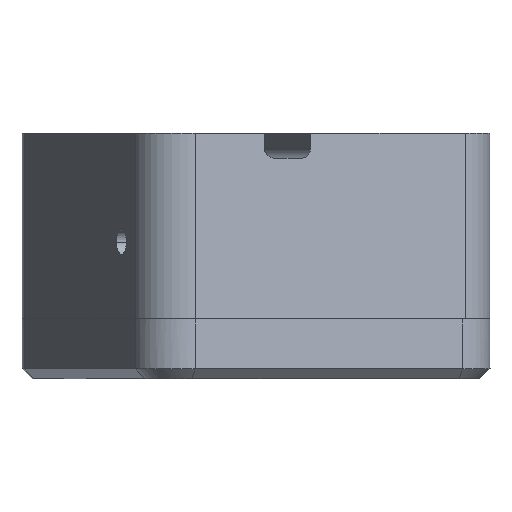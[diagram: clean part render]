
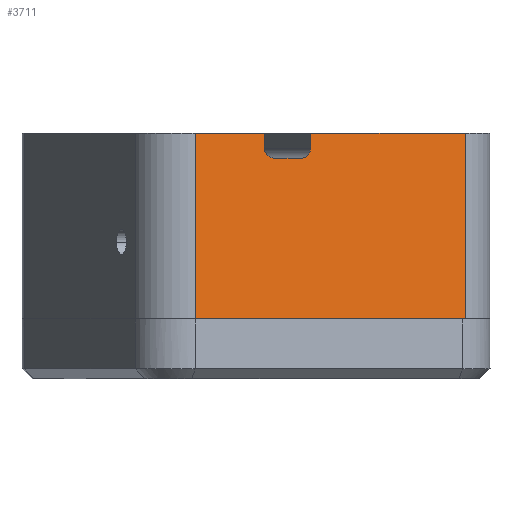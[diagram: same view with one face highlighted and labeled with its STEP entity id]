
A CAD part, left-side view. The second image highlights one B-rep face of the part: STEP entity #3711.
In plain terms, the highlighted planar face has unit normal (-0.923, -0.384, 0).
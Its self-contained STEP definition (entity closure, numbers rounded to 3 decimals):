
#111 = ORIENTED_EDGE ( 'NONE', *, *, #2089, .F. ) ;
#371 = DIRECTION ( 'NONE',  ( 0.384, -0.923, 0. ) ) ;
#483 = VECTOR ( 'NONE', #5556, 1000. ) ;
#633 = ORIENTED_EDGE ( 'NONE', *, *, #7580, .T. ) ;
#750 = VERTEX_POINT ( 'NONE', #2183 ) ;
#793 = LINE ( 'NONE', #832, #8430 ) ;
#832 = CARTESIAN_POINT ( 'NONE',  ( -69.879, -6.045, 90.978 ) ) ;
#849 = CARTESIAN_POINT ( 'NONE',  ( -68.73, -8.806, 90.978 ) ) ;
#1112 = CARTESIAN_POINT ( 'NONE',  ( -78.255, 14.086, 89.478 ) ) ;
#1174 = VERTEX_POINT ( 'NONE', #1431 ) ;
#1186 = EDGE_CURVE ( 'NONE', #5300, #1475, #8532, .T. ) ;
#1213 = CARTESIAN_POINT ( 'NONE',  ( -77.871, 13.163, 88.478 ) ) ;
#1353 = LINE ( 'NONE', #8113, #5048 ) ;
#1431 = CARTESIAN_POINT ( 'NONE',  ( -78.255, 14.086, 90.978 ) ) ;
#1475 = VERTEX_POINT ( 'NONE', #4881 ) ;
#1787 = AXIS2_PLACEMENT_3D ( 'NONE', #8083, #7229, #2144 ) ;
#2072 = FACE_OUTER_BOUND ( 'NONE', #4763, .T. ) ;
#2089 = EDGE_CURVE ( 'NONE', #2910, #1174, #4168, .T. ) ;
#2144 = DIRECTION ( 'NONE',  ( -0.384, 0.923, 0. ) ) ;
#2183 = CARTESIAN_POINT ( 'NONE',  ( -69.879, -6.045, 90.978 ) ) ;
#2187 = LINE ( 'NONE', #3351, #483 ) ;
#2208 = DIRECTION ( 'NONE',  ( 0., 0., -1. ) ) ;
#2341 = DIRECTION ( 'NONE',  ( 0.384, -0.923, 0. ) ) ;
#2580 = VECTOR ( 'NONE', #9474, 1000. ) ;
#2613 = VECTOR ( 'NONE', #8104, 1000. ) ;
#2910 = VERTEX_POINT ( 'NONE', #8473 ) ;
#3000 = CARTESIAN_POINT ( 'NONE',  ( -76.719, 10.393, 88.478 ) ) ;
#3183 = CARTESIAN_POINT ( 'NONE',  ( -68.73, -8.806, 90.978 ) ) ;
#3242 = CARTESIAN_POINT ( 'NONE',  ( -78.255, 14.086, 88.892 ) ) ;
#3263 = EDGE_CURVE ( 'NONE', #8423, #7279, #7568, .T. ) ;
#3351 = CARTESIAN_POINT ( 'NONE',  ( -69.879, -6.045, 88.478 ) ) ;
#3470 = EDGE_CURVE ( 'NONE', #7279, #4257, #2187, .T. ) ;
#3711 = ADVANCED_FACE ( 'NONE', ( #2072 ), #6616, .T. ) ;
#3917 = CARTESIAN_POINT ( 'NONE',  ( -78.255, 14.086, 90.978 ) ) ;
#4168 = LINE ( 'NONE', #3183, #6837 ) ;
#4217 = ORIENTED_EDGE ( 'NONE', *, *, #3263, .T. ) ;
#4257 = VERTEX_POINT ( 'NONE', #1213 ) ;
#4308 = CARTESIAN_POINT ( 'NONE',  ( -76.335, 9.47, 89.478 ) ) ;
#4503 = CARTESIAN_POINT ( 'NONE',  ( -76.494, 9.853, 88.478 ) ) ;
#4606 = CARTESIAN_POINT ( 'NONE',  ( -76.335, 9.47, 88.892 ) ) ;
#4743 = EDGE_CURVE ( 'NONE', #5123, #1174, #8905, .T. ) ;
#4763 = EDGE_LOOP ( 'NONE', ( #7742, #8642, #4217, #9408, #633, #8604, #111, #8148, #7784, #6190 ) ) ;
#4881 = CARTESIAN_POINT ( 'NONE',  ( -69.88, -6.045, 72.378 ) ) ;
#4898 = LINE ( 'NONE', #8823, #2580 ) ;
#5025 = CARTESIAN_POINT ( 'NONE',  ( -76.335, 9.47, 90.978 ) ) ;
#5048 = VECTOR ( 'NONE', #2208, 1000. ) ;
#5123 = VERTEX_POINT ( 'NONE', #1112 ) ;
#5269 = DIRECTION ( 'NONE',  ( 0., 0., 1. ) ) ;
#5300 = VERTEX_POINT ( 'NONE', #7153 ) ;
#5542 = EDGE_CURVE ( 'NONE', #8434, #750, #9592, .T. ) ;
#5556 = DIRECTION ( 'NONE',  ( -0.384, 0.923, 0. ) ) ;
#5988 = EDGE_CURVE ( 'NONE', #8434, #8423, #1353, .T. ) ;
#6152 = CARTESIAN_POINT ( 'NONE',  ( -78.096, 13.704, 88.478 ) ) ;
#6190 = ORIENTED_EDGE ( 'NONE', *, *, #9121, .T. ) ;
#6616 = PLANE ( 'NONE',  #1787 ) ;
#6837 = VECTOR ( 'NONE', #371, 1000. ) ;
#7153 = CARTESIAN_POINT ( 'NONE',  ( -81.139, 21.017, 72.378 ) ) ;
#7229 = DIRECTION ( 'NONE',  ( -0.923, -0.384, 0. ) ) ;
#7279 = VERTEX_POINT ( 'NONE', #3000 ) ;
#7353 = CARTESIAN_POINT ( 'NONE',  ( -69.88, -6.045, 72.378 ) ) ;
#7568 =( BOUNDED_CURVE ( )  B_SPLINE_CURVE ( 3, ( #8329, #4606, #4503, #9045 ),
 .UNSPECIFIED., .F., .T. ) 
 B_SPLINE_CURVE_WITH_KNOTS ( ( 4, 4 ),
 ( 0., 1.571 ),
 .UNSPECIFIED. ) 
 CURVE ( )  GEOMETRIC_REPRESENTATION_ITEM ( )  RATIONAL_B_SPLINE_CURVE ( ( 1., 0.805, 0.805, 1. ) ) 
 REPRESENTATION_ITEM ( '' )  );
#7580 = EDGE_CURVE ( 'NONE', #4257, #5123, #8275, .T. ) ;
#7742 = ORIENTED_EDGE ( 'NONE', *, *, #5542, .F. ) ;
#7784 = ORIENTED_EDGE ( 'NONE', *, *, #1186, .T. ) ;
#7785 = CARTESIAN_POINT ( 'NONE',  ( -77.871, 13.163, 88.478 ) ) ;
#8083 = CARTESIAN_POINT ( 'NONE',  ( -69.879, -6.045, 90.978 ) ) ;
#8104 = DIRECTION ( 'NONE',  ( 0.384, -0.923, 0. ) ) ;
#8113 = CARTESIAN_POINT ( 'NONE',  ( -76.335, 9.47, 90.978 ) ) ;
#8148 = ORIENTED_EDGE ( 'NONE', *, *, #8348, .T. ) ;
#8275 =( BOUNDED_CURVE ( )  B_SPLINE_CURVE ( 3, ( #7785, #6152, #3242, #8436 ),
 .UNSPECIFIED., .F., .T. ) 
 B_SPLINE_CURVE_WITH_KNOTS ( ( 4, 4 ),
 ( 1.571, 3.142 ),
 .UNSPECIFIED. ) 
 CURVE ( )  GEOMETRIC_REPRESENTATION_ITEM ( )  RATIONAL_B_SPLINE_CURVE ( ( 1., 0.805, 0.805, 1. ) ) 
 REPRESENTATION_ITEM ( '' )  );
#8329 = CARTESIAN_POINT ( 'NONE',  ( -76.335, 9.47, 89.478 ) ) ;
#8348 = EDGE_CURVE ( 'NONE', #2910, #5300, #4898, .T. ) ;
#8423 = VERTEX_POINT ( 'NONE', #4308 ) ;
#8430 = VECTOR ( 'NONE', #8976, 1000. ) ;
#8434 = VERTEX_POINT ( 'NONE', #5025 ) ;
#8436 = CARTESIAN_POINT ( 'NONE',  ( -78.255, 14.086, 89.478 ) ) ;
#8473 = CARTESIAN_POINT ( 'NONE',  ( -81.139, 21.017, 90.978 ) ) ;
#8532 = LINE ( 'NONE', #7353, #2613 ) ;
#8604 = ORIENTED_EDGE ( 'NONE', *, *, #4743, .T. ) ;
#8642 = ORIENTED_EDGE ( 'NONE', *, *, #5988, .T. ) ;
#8669 = VECTOR ( 'NONE', #5269, 1000. ) ;
#8823 = CARTESIAN_POINT ( 'NONE',  ( -81.139, 21.017, 90.978 ) ) ;
#8905 = LINE ( 'NONE', #3917, #8669 ) ;
#8976 = DIRECTION ( 'NONE',  ( 0., 0., 1. ) ) ;
#9045 = CARTESIAN_POINT ( 'NONE',  ( -76.719, 10.393, 88.478 ) ) ;
#9121 = EDGE_CURVE ( 'NONE', #1475, #750, #793, .T. ) ;
#9354 = VECTOR ( 'NONE', #2341, 1000. ) ;
#9408 = ORIENTED_EDGE ( 'NONE', *, *, #3470, .T. ) ;
#9474 = DIRECTION ( 'NONE',  ( 0., 0., -1. ) ) ;
#9592 = LINE ( 'NONE', #849, #9354 ) ;
